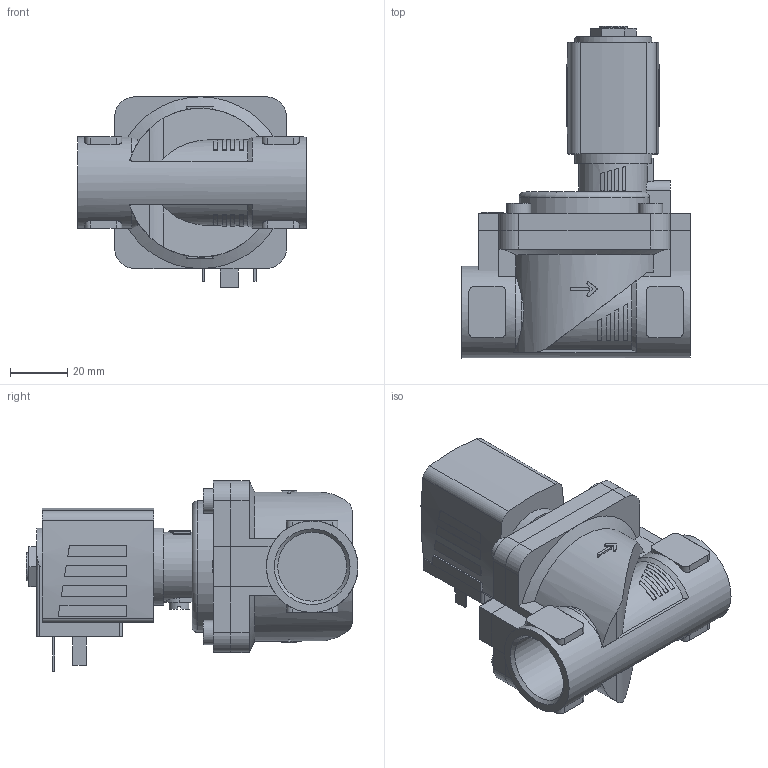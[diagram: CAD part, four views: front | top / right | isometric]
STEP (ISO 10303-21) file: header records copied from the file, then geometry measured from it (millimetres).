
FILE_DESCRIPTION(/* description */ ('STEP AP214'),/* implementation_level */ '2;1');
FILE_NAME(/* name */ '6281-360951-2_2-Way_Solenoid_Valve__Servo-assisted__General_Purpose',/* time_stamp */ '2024-08-20T17:52:38+02:00',/* author */ ('License CC BY-ND 4.0'),/* organization */ ('CADENAS'),/* preprocessor_version */ 'ST-DEVELOPER v19.3',/* originating_system */ 'PARTsolutions',/* authorisation */ ' ');
FILE_SCHEMA (('AUTOMOTIVE_DESIGN {1 0 10303 214 3 1 1}'));
Length unit declared in the file: millimetre
Products named in the file (4): 6281-360951-2/2-Way Solenoid Valve, Servo-assisted, General Purpose; 5281ev202VA2/2-Wege-Magnetventil mit Servomembran-Deckel  HA15 ; 6213-20G3/4VA-Gehaeuse-; AC10ex-5NA38-Plan-Coil
Assembly tree (3 placements, depth 2):
  6281-360951-2/2-Way Solenoid Valve, Servo-assisted, General Purpose
    5281ev202VA2/2-Wege-Magnetventil mit Servomembran-Deckel  HA15 
    6213-20G3/4VA-Gehaeuse-
    AC10ex-5NA38-Plan-Coil
Bounding box: 80 x 116 x 66.5 mm (x, y, z)
Volume: 198285.8 mm3; surface area: 42296.3 mm2
Topology: 3 solids, 3 shells, 347 faces, 877 edges, 578 vertices
Faces by surface type: plane 240, cylinder 89, cone 17, torus 1
Full cylindrical faces by diameter (mm): 2.013 x1, 7 x1, 8.5 x4, 9.74 x1, 24.117 x2, 27 x1, 32 x1
Entity records: 11709 total; most frequent: CARTESIAN_POINT 2043, DIRECTION 1740, ORIENTED_EDGE 1700, EDGE_CURVE 850, AXIS2_PLACEMENT_3D 613, VERTEX_POINT 568, LINE 514, VECTOR 514
